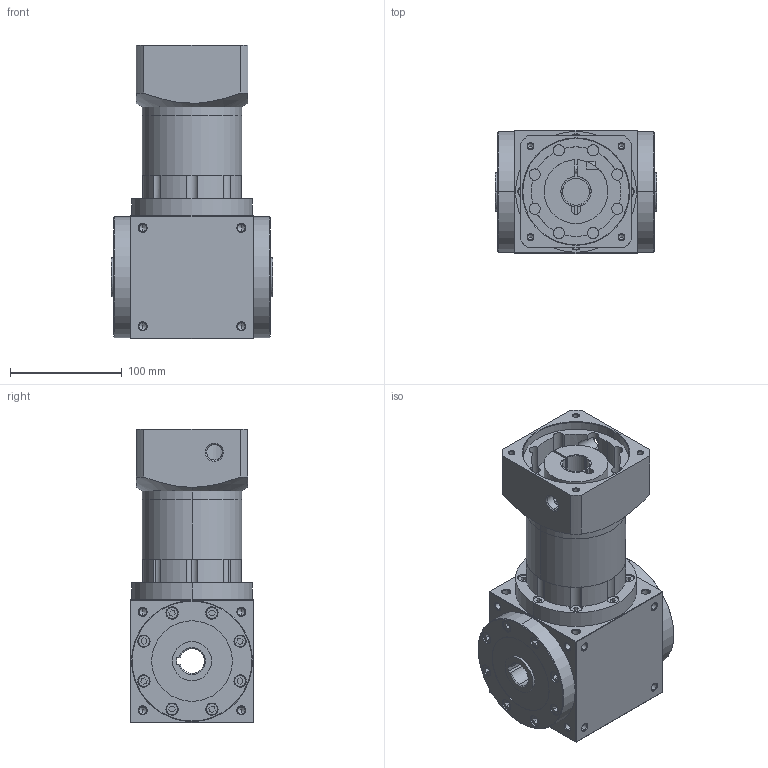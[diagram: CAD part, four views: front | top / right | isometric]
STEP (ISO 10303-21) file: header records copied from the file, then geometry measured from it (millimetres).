
FILE_DESCRIPTION (( 'STEP AP203' ), '1' );
FILE_NAME ('AT120-FH-L3-24-95-115M6.STEP', '2025-08-14T08:48:02', ( 'Windows User' ), ( 'P R C' ), 'SwSTEP 2.0', 'SolidWorks 2016', '' );
FILE_SCHEMA (( 'CONFIG_CONTROL_DESIGN' ));
Length unit declared in the file: millimetre
Products named in the file (6): AT120-蛌褒眊极-謂怀堤; AT120-怀堤楊擘-蠶講; AT120双级齿圈; AT120-输入法兰-J-1-50-95-M6-115-方100; 输入胀套-27; AT120-FH-L3-24-95-115M6
Assembly tree (5 placements, depth 2):
  AT120-FH-L3-24-95-115M6
    AT120-蛌褒眊极-謂怀堤
    AT120-怀堤楊擘-蠶講
    AT120双级齿圈
    AT120-输入法兰-J-1-50-95-M6-115-方100
    输入胀套-27
Bounding box: 144 x 110 x 262 mm (x, y, z)
Volume: 1969976.4 mm3; surface area: 298118.8 mm2
Topology: 5 solids, 17 shells, 1560 faces, 4085 edges, 2606 vertices
Faces by surface type: plane 806, cylinder 373, cone 226, bspline 155
Entity records: 54516 total; most frequent: CARTESIAN_POINT 16913, ORIENTED_EDGE 7994, DIRECTION 7093, EDGE_CURVE 3997, VERTEX_POINT 2606, VECTOR 2575, LINE 2575, AXIS2_PLACEMENT_3D 2259
